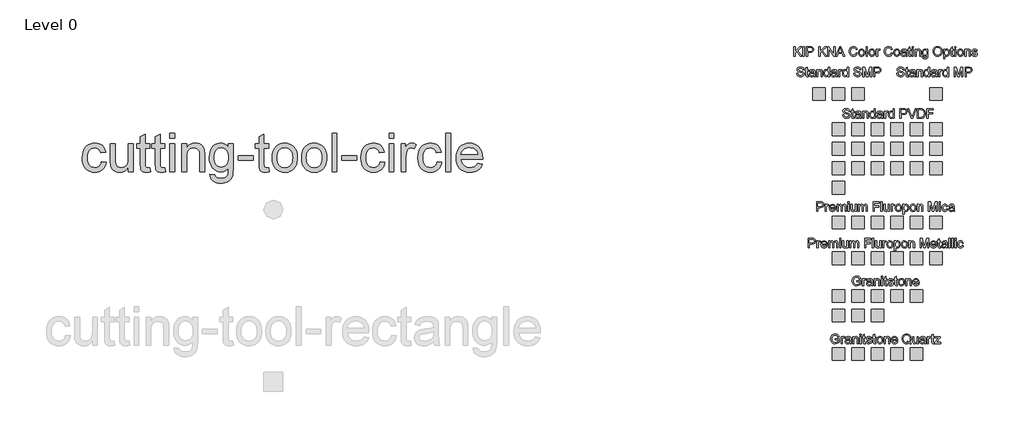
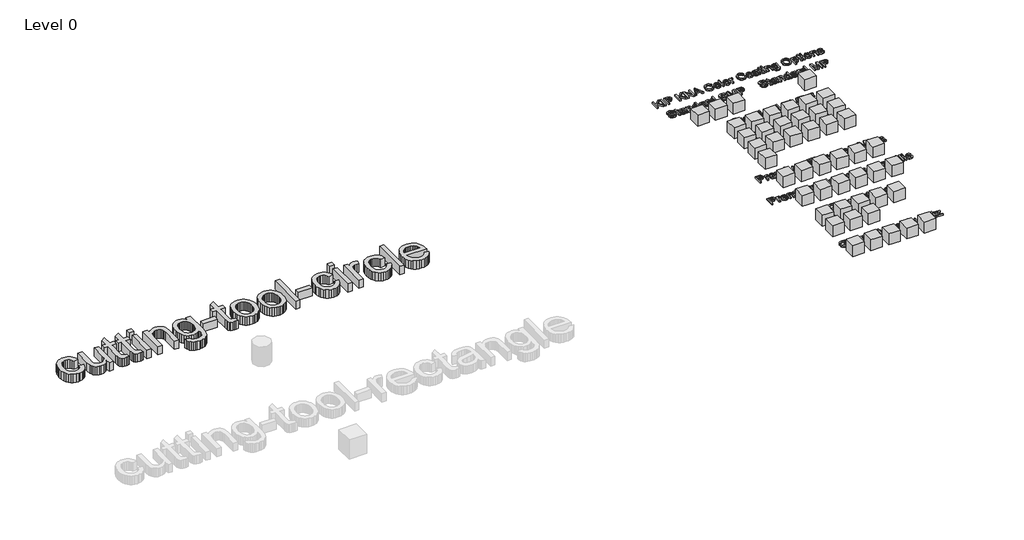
# One storey, part 4 of 4: 50 proxies.
"""IFC4 building model written with IfcOpenShell, lengths in millimetres."""

from ifc_helpers import new_model, si_unit, origin, origin_with_axes, place, context, project, spatial, polyline, outline, extrude, transform, mapped, element, save
from components import ks_color_sample_ks_color_sample_0243efec, r19_kna_color_range_kingspan_quadcore_4278cd54, r19_kna_color_range_kingspan_quadcore_c5814d20, r19_kna_color_range_kingspan_quadcore_91b79b7c

model = new_model("IFC4")

# Units and contexts
model_context = context("Model", 3, world=origin())
ifc_project = project(units=[si_unit("LENGTHUNIT", "METRE", prefix="MILLI")], contexts=[model_context])

# Site, building, storey
site = spatial("IfcSite", under=ifc_project)
building = spatial("IfcBuilding", under=site)
storey = spatial("IfcBuildingStorey", under=building, Name="Level 0", Elevation=0.0)

# Proxies
placement = place(None, origin())
element("IfcBuildingElementProxy", 1, Name="24\" Arial", ObjectType="24\" Arial", at=placement, inside=storey, context=model_context, shape_type="SweptSolid", body=[
    extrude(outline(polyline([(769.6651556, 12564.0079418), (845.8069291, 12554.4902201), (837.5253958, 12518.5617502), (824.5779483, 12486.7693996), (806.9645864, 12459.1131683), (784.6853101, 12435.5930562), (758.6788792, 12416.8225104), (729.8840532, 12403.4149776), (698.3008322, 12395.370458), (663.9292162, 12392.6889514), (621.2249463, 12396.4300481), (582.9356353, 12407.653338), (549.0612831, 12426.3588213), (519.6018896, 12452.546498), (495.7564648, 12485.7237515), (478.7240185, 12525.3979654), (468.5045507, 12571.5691397), (465.0980615, 12624.2372744), (470.9165124, 12691.9952735), (478.1895761, 12722.4863731), (488.3718653, 12750.7188728), (501.5330898, 12776.1257988), (517.7429596, 12798.1401775), (537.0014746, 12816.762009), (559.3086348, 12831.9912931), (583.6559707, 12843.8326774), (609.0350127, 12852.2908089), (635.445761, 12857.3656879), (662.8882154, 12859.0573142), (696.6696211, 12856.7336517), (727.2257833, 12849.7626641), (754.5567018, 12838.1443515), (778.6623768, 12821.8787138), (799.1338437, 12801.3375372), (815.5621377, 12776.8926074), (827.9472589, 12748.5439247), (836.2892074, 12716.2914889), (760.1474339, 12706.7737672), (746.3355838, 12739.9928466), (724.8277635, 12763.8057401), (696.8136882, 12778.1380905), (663.483073, 12782.9155407), (637.6114144, 12780.5639942), (614.2771954, 12773.5093548), (593.4804158, 12761.7516224), (575.2210757, 12745.2907971), (560.3542829, 12723.7457982), (549.7351452, 12696.7355451), (543.3636626, 12664.2600377), (541.239835, 12626.319276), (543.3171893, 12587.8068934), (549.5492522, 12554.9549526), (559.9360237, 12527.7634538), (574.4775037, 12506.2323969), (592.3743525, 12489.8691654), (612.82723, 12478.1811429), (635.8361363, 12471.1683294), (661.4010713, 12468.8307249), (700.828977, 12474.6677652), (717.8800126, 12481.9640655), (733.15577, 12492.1788859), (746.2286954, 12505.4237623), (756.6712347, 12521.8102304), (764.4833881, 12541.3382903), (769.6651556, 12564.0079418)])), origin_with_axes(), (0.0, 0.0, 1.0), 152.4),
    extrude(outline(polyline([(1197.9626316, 12402.2066731), (1197.9626316, 12479.0920186), (1170.4132887, 12441.2906767), (1138.3281566, 12414.2897182), (1101.7072353, 12398.0891431), (1060.5505247, 12392.6889514), (1023.4648708, 12396.4811686), (988.9445404, 12407.8578203), (959.9824108, 12424.9599765), (939.5713592, 12445.9287071), (925.8338663, 12471.3960483), (916.8924129, 12501.9940364), (912.4309809, 12572.7820915), (912.4309809, 12849.5395925), (988.5727544, 12849.5395925), (988.5727544, 12608.6222622), (989.725291, 12560.4387962), (993.1829009, 12530.9933447), (1004.2807131, 12505.0984496), (1023.2975671, 12485.4123807), (1048.9693907, 12472.9761389), (1080.0321113, 12468.8307249), (1112.8794047, 12473.0690854), (1143.6075179, 12485.7841667), (1168.944734, 12505.804843), (1185.6193363, 12531.9599883), (1194.8768078, 12567.7815698), (1197.9626316, 12616.8015543), (1197.9626316, 12849.5395925), (1274.1044051, 12849.5395925), (1274.1044051, 12402.2066731), (1197.9626316, 12402.2066731)])), origin_with_axes(), (0.0, 0.0, 1.0), 152.4),
    extrude(outline(polyline([(1540.6006124, 12465.7077225), (1550.1183341, 12399.9759571), (1519.9664892, 12394.5107028), (1493.1607184, 12392.6889514), (1456.6141542, 12395.8491324), (1429.3622402, 12405.3296755), (1410.1037252, 12419.9408655), (1397.5373583, 12438.492987), (1390.6221386, 12470.3550475), (1388.3170654, 12524.8960543), (1388.3170654, 12773.397819), (1331.2107352, 12773.397819), (1331.2107352, 12849.5395925), (1388.3170654, 12849.5395925), (1388.3170654, 12958.2498199), (1464.4588389, 13003.0128548), (1464.4588389, 12849.5395925), (1540.6006124, 12849.5395925), (1540.6006124, 12773.397819), (1464.4588389, 12773.397819), (1464.4588389, 12527.1267703), (1468.4741277, 12487.8661683), (1481.4866379, 12473.9613718), (1492.4729143, 12470.1133866), (1507.4373009, 12468.8307249), (1540.6006124, 12465.7077225)])), origin_with_axes(), (0.0, 0.0, 1.0), 152.4),
    extrude(outline(polyline([(1778.5436547, 12465.7077225), (1788.0613763, 12399.9759571), (1757.9095315, 12394.5107028), (1731.1037606, 12392.6889514), (1694.5571965, 12395.8491324), (1667.3052824, 12405.3296755), (1648.0467674, 12419.9408655), (1635.4804005, 12438.492987), (1628.5651808, 12470.3550475), (1626.2601076, 12524.8960543), (1626.2601076, 12773.397819), (1569.1537775, 12773.397819), (1569.1537775, 12849.5395925), (1626.2601076, 12849.5395925), (1626.2601076, 12958.2498199), (1702.4018811, 13003.0128548), (1702.4018811, 12849.5395925), (1778.5436547, 12849.5395925), (1778.5436547, 12773.397819), (1702.4018811, 12773.397819), (1702.4018811, 12527.1267703), (1706.41717, 12487.8661683), (1719.4296801, 12473.9613718), (1730.4159565, 12470.1133866), (1745.3803431, 12468.8307249), (1778.5436547, 12465.7077225)])), origin_with_axes(), (0.0, 0.0, 1.0), 152.4),
    extrude(outline(polyline([(1854.6854282, 12935.1990877), (1854.6854282, 13011.3408612), (1930.8272017, 13011.3408612), (1930.8272017, 12935.1990877), (1854.6854282, 12935.1990877)])), origin_with_axes(), (0.0, 0.0, 1.0), 152.4),
    extrude(outline(polyline([(1854.6854282, 12402.2066731), (1854.6854282, 12849.5395925), (1930.8272017, 12849.5395925), (1930.8272017, 12402.2066731), (1854.6854282, 12402.2066731)])), origin_with_axes(), (0.0, 0.0, 1.0), 152.4),
    extrude(outline(polyline([(2045.039862, 12402.2066731), (2045.039862, 12849.5395925), (2121.1816355, 12849.5395925), (2121.1816355, 12787.0795439), (2147.6342096, 12818.5698184), (2179.4033236, 12841.0628716), (2216.4889775, 12854.5587036), (2258.8911712, 12859.0573142), (2296.4229682, 12855.4324007), (2330.7945843, 12844.5576601), (2359.4592851, 12827.7901113), (2379.8703367, 12806.4867733), (2393.7193654, 12780.703414), (2402.6979973, 12750.4958012), (2406.7132862, 12676.8821725), (2406.7132862, 12402.2066731), (2330.5715127, 12402.2066731), (2330.5715127, 12666.6208788), (2328.3779752, 12705.9930166), (2321.797363, 12733.9885026), (2309.65855, 12754.0463575), (2290.7904103, 12769.6056018), (2266.6057308, 12779.5880559), (2238.5172982, 12782.9155407), (2215.3968561, 12781.047316), (2193.9215671, 12775.442642), (2174.0914311, 12766.1015187), (2155.9064482, 12753.023946), (2140.7143426, 12734.72278), (2129.8628387, 12709.7108766), (2123.3519363, 12677.9882358), (2121.1816355, 12639.5548577), (2121.1816355, 12402.2066731), (2045.039862, 12402.2066731)])), origin_with_axes(), (0.0, 0.0, 1.0), 152.4),
    extrude(outline(polyline([(2492.3727814, 12364.1357863), (2568.5145549, 12354.6180646), (2576.9169186, 12330.8237604), (2593.2011455, 12314.4651763), (2625.2119204, 12301.7500949), (2667.112203, 12297.5117345), (2711.8008806, 12302.307774), (2729.8510911, 12308.3028233), (2745.0385494, 12316.6958923), (2768.0892816, 12339.7466245), (2782.2171497, 12370.5305056), (2786.3439744, 12403.2848525), (2787.4221538, 12459.3130032), (2762.0849376, 12434.3289838), (2733.8106121, 12416.4832556), (2702.5991771, 12405.7758187), (2668.4506326, 12402.2066731), (2626.7037118, 12406.3613817), (2589.948018, 12418.8255075), (2558.1835513, 12439.5990504), (2531.4103117, 12468.6820105), (2510.167389, 12503.5741269), (2494.9938727, 12541.7751388), (2485.8897629, 12583.2850461), (2482.8550597, 12628.1038488), (2488.3017246, 12689.5786645), (2504.6417195, 12746.1087263), (2516.7526486, 12771.5993042), (2531.2987759, 12794.0133529), (2548.2801017, 12813.3508724), (2567.6966257, 12829.6118627), (2589.2369773, 12842.4942477), (2612.5897856, 12851.6959513), (2637.7550507, 12857.2169735), (2664.7327726, 12859.0573142), (2700.3405771, 12854.893311), (2732.6580754, 12842.4013012), (2761.6852677, 12821.581285), (2787.4221538, 12792.4332624), (2787.4221538, 12849.5395925), (2863.5639273, 12849.5395925), (2863.5639273, 12463.3282921), (2858.3589232, 12374.1554191), (2851.8526682, 12340.9874603), (2842.7439111, 12315.4318199), (2830.8142277, 12294.8209333), (2815.8451937, 12276.487236), (2797.8368092, 12260.430728), (2776.7890741, 12246.6514092), (2752.9157653, 12235.5907756), (2726.4306599, 12227.6903231), (2697.3337578, 12222.9500515), (2665.625059, 12221.369961), (2628.3209809, 12223.5960297), (2594.781236, 12230.2742358), (2565.0058245, 12241.4045793), (2538.9947462, 12256.9870601), (2517.9841897, 12277.0402677), (2503.2103434, 12301.5827912), (2494.6732073, 12330.6146308), (2492.3727814, 12364.1357863)]), holes=[polyline([(2558.9968332, 12633.3088529), (2561.0277143, 12595.6608727), (2567.1203574, 12563.4688521), (2577.2747626, 12536.7327911), (2591.4909299, 12515.4526898), (2608.7743318, 12499.2195834), (2628.1304406, 12487.6245074), (2649.5592563, 12480.6674618), (2673.0607791, 12478.3484466), (2696.3299356, 12480.6535198), (2717.6565102, 12487.5687395), (2737.040503, 12499.0941056), (2754.4819139, 12515.2296182), (2768.8932688, 12536.3005899), (2779.1870938, 12562.6323336), (2785.3633888, 12594.2248493), (2787.4221538, 12631.0781369), (2785.3029735, 12666.3931599), (2778.9454329, 12697.0887418), (2768.3495318, 12723.1648826), (2753.5152702, 12744.6215823), (2735.697426, 12761.3751891), (2716.1507769, 12773.3420511), (2694.8753228, 12780.5221683), (2671.8710639, 12782.9155407), (2649.2525329, 12780.5593469), (2628.3906908, 12773.4907655), (2609.2855375, 12761.7097965), (2591.9370731, 12745.2164399), (2577.5257182, 12724.085053), (2567.2318932, 12698.3899928), (2561.0555982, 12668.1312594), (2558.9968332, 12633.3088529)])]), origin_with_axes(), (0.0, 0.0, 1.0), 152.4),
    extrude(outline(polyline([(2939.7057008, 12583.0433852), (2939.7057008, 12659.1851587), (3177.648743, 12659.1851587), (3177.648743, 12583.0433852), (2939.7057008, 12583.0433852)])), origin_with_axes(), (0.0, 0.0, 1.0), 152.4),
    extrude(outline(polyline([(3425.109507, 12465.7077225), (3434.6272287, 12399.9759571), (3404.4753838, 12394.5107028), (3377.6696129, 12392.6889514), (3341.1230488, 12395.8491324), (3313.8711347, 12405.3296755), (3294.6126197, 12419.9408655), (3282.0462528, 12438.492987), (3275.1310332, 12470.3550475), (3272.8259599, 12524.8960543), (3272.8259599, 12773.397819), (3215.7196298, 12773.397819), (3215.7196298, 12849.5395925), (3272.8259599, 12849.5395925), (3272.8259599, 12958.2498199), (3348.9677334, 13003.0128548), (3348.9677334, 12849.5395925), (3425.109507, 12849.5395925), (3425.109507, 12773.397819), (3348.9677334, 12773.397819), (3348.9677334, 12527.1267703), (3352.9830223, 12487.8661683), (3365.9955324, 12473.9613718), (3376.9818088, 12470.1133866), (3391.9461955, 12468.8307249), (3425.109507, 12465.7077225)])), origin_with_axes(), (0.0, 0.0, 1.0), 152.4),
    extrude(outline(polyline([(3482.2158371, 12625.8731328), (3486.3333671, 12683.8066868), (3498.6859571, 12733.7282524), (3519.273607, 12775.6378297), (3548.0963169, 12809.5354185), (3577.1142145, 12831.2012479), (3609.1435787, 12846.6768403), (3644.1844095, 12855.9621957), (3682.236707, 12859.0573142), (3724.2438781, 12855.2883336), (3762.2264656, 12843.9813918), (3796.1844697, 12825.1364887), (3826.1178903, 12798.7536244), (3850.5488781, 12765.7250853), (3867.9995836, 12726.9431579), (3878.470007, 12682.407842), (3881.9601481, 12632.1191377), (3880.4172362, 12591.362097), (3875.7885004, 12555.1966135), (3868.0739408, 12523.6226872), (3857.2735574, 12496.640318), (3843.5221226, 12473.3339829), (3826.9544089, 12452.7881589), (3807.5704161, 12435.0028459), (3785.3701444, 12419.9780441), (3761.2179961, 12408.039066), (3735.9783738, 12399.5112246), (3709.6512774, 12394.3945197), (3682.236707, 12392.6889514), (3639.616089, 12396.44399), (3601.2803047, 12407.7091059), (3567.2293541, 12426.4842991), (3537.4632372, 12452.7695696), (3513.2924997, 12486.1187741), (3496.0276871, 12526.0857695), (3485.6687996, 12572.6705557), (3482.2158371, 12625.8731328)]), holes=[polyline([(3558.3576106, 12626.0218472), (3560.5604427, 12589.0895551), (3567.1689389, 12557.1113115), (3578.1830993, 12530.0871163), (3593.6029238, 12508.0169697), (3612.3595276, 12490.8729876), (3633.3840261, 12478.6272861), (3656.6764192, 12471.2798652), (3682.236707, 12468.8307249), (3707.6668696, 12471.2938072), (3730.8663162, 12478.683054), (3751.8350468, 12490.9984654), (3770.5730614, 12508.2400413), (3785.9928859, 12530.5286122), (3797.0070463, 12557.9850086), (3803.6155425, 12590.6092304), (3805.8183746, 12628.4012776), (3803.6016005, 12664.1624438), (3796.9512784, 12695.304169), (3785.8674081, 12721.826453), (3770.3499898, 12743.7292959), (3751.5422654, 12760.873278), (3730.5874767, 12773.1189795), (3707.485624, 12780.4664004), (3682.236707, 12782.9155407), (3656.6764192, 12780.475695), (3633.3840261, 12773.1561581), (3612.3595276, 12760.9569298), (3593.6029238, 12743.8780103), (3578.1830993, 12721.8729262), (3567.1689389, 12694.8952044), (3560.5604427, 12662.9448447), (3558.3576106, 12626.0218472)])]), origin_with_axes(), (0.0, 0.0, 1.0), 152.4),
    extrude(outline(polyline([(3948.5841999, 12625.8731328), (3952.7017299, 12683.8066868), (3965.0543199, 12733.7282524), (3985.6419698, 12775.6378297), (4014.4646797, 12809.5354185), (4043.4825773, 12831.2012479), (4075.5119415, 12846.6768403), (4110.5527723, 12855.9621957), (4148.6050698, 12859.0573142), (4190.6122409, 12855.2883336), (4228.5948284, 12843.9813918), (4262.5528325, 12825.1364887), (4292.4862531, 12798.7536244), (4316.9172409, 12765.7250853), (4334.3679464, 12726.9431579), (4344.8383698, 12682.407842), (4348.3285109, 12632.1191377), (4346.7855989, 12591.362097), (4342.1568632, 12555.1966135), (4334.4423036, 12523.6226872), (4323.6419202, 12496.640318), (4309.8904854, 12473.3339829), (4293.3227716, 12452.7881589), (4273.9387789, 12435.0028459), (4251.7385072, 12419.9780441), (4227.5863589, 12408.039066), (4202.3467366, 12399.5112246), (4176.0196402, 12394.3945197), (4148.6050698, 12392.6889514), (4105.9844518, 12396.44399), (4067.6486675, 12407.7091059), (4033.5977169, 12426.4842991), (4003.8316, 12452.7695696), (3979.6608625, 12486.1187741), (3962.3960499, 12526.0857695), (3952.0371624, 12572.6705557), (3948.5841999, 12625.8731328)]), holes=[polyline([(4024.7259734, 12626.0218472), (4026.9288055, 12589.0895551), (4033.5373017, 12557.1113115), (4044.5514621, 12530.0871163), (4059.9712865, 12508.0169697), (4078.7278904, 12490.8729876), (4099.7523889, 12478.6272861), (4123.044782, 12471.2798652), (4148.6050698, 12468.8307249), (4174.0352324, 12471.2938072), (4197.234679, 12478.683054), (4218.2034096, 12490.9984654), (4236.9414242, 12508.2400413), (4252.3612487, 12530.5286122), (4263.3754091, 12557.9850086), (4269.9839053, 12590.6092304), (4272.1867373, 12628.4012776), (4269.9699633, 12664.1624438), (4263.3196412, 12695.304169), (4252.2357709, 12721.826453), (4236.7183526, 12743.7292959), (4217.9106282, 12760.873278), (4196.9558395, 12773.1189795), (4173.8539867, 12780.4664004), (4148.6050698, 12782.9155407), (4123.044782, 12780.475695), (4099.7523889, 12773.1561581), (4078.7278904, 12760.9569298), (4059.9712865, 12743.8780103), (4044.5514621, 12721.8729262), (4033.5373017, 12694.8952044), (4026.9288055, 12662.9448447), (4024.7259734, 12626.0218472)])]), origin_with_axes(), (0.0, 0.0, 1.0), 152.4),
    extrude(outline(polyline([(4433.9880061, 12402.2066731), (4433.9880061, 13011.3408612), (4510.1297796, 13011.3408612), (4510.1297796, 12402.2066731), (4433.9880061, 12402.2066731)])), origin_with_axes(), (0.0, 0.0, 1.0), 152.4),
    extrude(outline(polyline([(4586.2715531, 12583.0433852), (4586.2715531, 12659.1851587), (4824.2145953, 12659.1851587), (4824.2145953, 12583.0433852), (4586.2715531, 12583.0433852)])), origin_with_axes(), (0.0, 0.0, 1.0), 152.4),
    extrude(outline(polyline([(5195.4057412, 12564.0079418), (5271.5475148, 12554.4902201), (5263.2659815, 12518.5617502), (5250.318534, 12486.7693996), (5232.705172, 12459.1131683), (5210.4258958, 12435.5930562), (5184.4194648, 12416.8225104), (5155.6246389, 12403.4149776), (5124.0414179, 12395.370458), (5089.6698018, 12392.6889514), (5046.965532, 12396.4300481), (5008.676221, 12407.653338), (4974.8018687, 12426.3588213), (4945.3424753, 12452.546498), (4921.4970505, 12485.7237515), (4904.4646042, 12525.3979654), (4894.2451364, 12571.5691397), (4890.8386472, 12624.2372744), (4896.6570981, 12691.9952735), (4903.9301618, 12722.4863731), (4914.112451, 12750.7188728), (4927.2736755, 12776.1257988), (4943.4835453, 12798.1401775), (4962.7420602, 12816.762009), (4985.0492205, 12831.9912931), (5009.3965564, 12843.8326774), (5034.7755984, 12852.2908089), (5061.1863466, 12857.3656879), (5088.628801, 12859.0573142), (5122.4102068, 12856.7336517), (5152.9663689, 12849.7626641), (5180.2972875, 12838.1443515), (5204.4029625, 12821.8787138), (5224.8744293, 12801.3375372), (5241.3027234, 12776.8926074), (5253.6878446, 12748.5439247), (5262.0297931, 12716.2914889), (5185.8880195, 12706.7737672), (5172.0761695, 12739.9928466), (5150.5683492, 12763.8057401), (5122.5542739, 12778.1380905), (5089.2236586, 12782.9155407), (5063.3520001, 12780.5639942), (5040.0177811, 12773.5093548), (5019.2210015, 12761.7516224), (5000.9616614, 12745.2907971), (4986.0948686, 12723.7457982), (4975.4757309, 12696.7355451), (4969.1042482, 12664.2600377), (4966.9804207, 12626.319276), (4969.057775, 12587.8068934), (4975.2898379, 12554.9549526), (4985.6766093, 12527.7634538), (5000.2180894, 12506.2323969), (5018.1149381, 12489.8691654), (5038.5678157, 12478.1811429), (5061.576722, 12471.1683294), (5087.141657, 12468.8307249), (5126.5695627, 12474.6677652), (5143.6205983, 12481.9640655), (5158.8963557, 12492.1788859), (5171.969281, 12505.4237623), (5182.4118204, 12521.8102304), (5190.2239738, 12541.3382903), (5195.4057412, 12564.0079418)])), origin_with_axes(), (0.0, 0.0, 1.0), 152.4),
    extrude(outline(polyline([(5338.1715666, 12935.1990877), (5338.1715666, 13011.3408612), (5414.3133401, 13011.3408612), (5414.3133401, 12935.1990877), (5338.1715666, 12935.1990877)])), origin_with_axes(), (0.0, 0.0, 1.0), 152.4),
    extrude(outline(polyline([(5338.1715666, 12402.2066731), (5338.1715666, 12849.5395925), (5414.3133401, 12849.5395925), (5414.3133401, 12402.2066731), (5338.1715666, 12402.2066731)])), origin_with_axes(), (0.0, 0.0, 1.0), 152.4),
    extrude(outline(polyline([(5528.5260004, 12402.2066731), (5528.5260004, 12849.5395925), (5595.1500522, 12849.5395925), (5595.1500522, 12783.3616839), (5619.7622856, 12821.7299994), (5642.4412318, 12844.3345885), (5665.1945353, 12855.3766328), (5690.0298403, 12859.0573142), (5727.9520127, 12853.1830953), (5766.4690426, 12835.5604388), (5741.03888, 12767.3005285), (5714.2702877, 12779.0117876), (5687.5016955, 12782.9155407), (5664.7669814, 12779.160502), (5644.4488763, 12767.8953861), (5628.0345242, 12749.9753008), (5617.0110692, 12726.2553537), (5607.7535977, 12683.7230349), (5604.6677739, 12637.3241417), (5604.6677739, 12402.2066731), (5528.5260004, 12402.2066731)])), origin_with_axes(), (0.0, 0.0, 1.0), 152.4),
    extrude(outline(polyline([(6099.5893018, 12564.0079418), (6175.7310753, 12554.4902201), (6167.449542, 12518.5617502), (6154.5020945, 12486.7693996), (6136.8887326, 12459.1131683), (6114.6094563, 12435.5930562), (6088.6030254, 12416.8225104), (6059.8081994, 12403.4149776), (6028.2249784, 12395.370458), (5993.8533624, 12392.6889514), (5951.1490925, 12396.4300481), (5912.8597815, 12407.653338), (5878.9854293, 12426.3588213), (5849.5260358, 12452.546498), (5825.680611, 12485.7237515), (5808.6481647, 12525.3979654), (5798.4286969, 12571.5691397), (5795.0222077, 12624.2372744), (5800.8406586, 12691.9952735), (5808.1137223, 12722.4863731), (5818.2960115, 12750.7188728), (5831.457236, 12776.1257988), (5847.6671058, 12798.1401775), (5866.9256208, 12816.762009), (5889.232781, 12831.9912931), (5913.5801169, 12843.8326774), (5938.9591589, 12852.2908089), (5965.3699072, 12857.3656879), (5992.8123615, 12859.0573142), (6026.5937673, 12856.7336517), (6057.1499295, 12849.7626641), (6084.480848, 12838.1443515), (6108.586523, 12821.8787138), (6129.0579899, 12801.3375372), (6145.4862839, 12776.8926074), (6157.8714051, 12748.5439247), (6166.2133536, 12716.2914889), (6090.0715801, 12706.7737672), (6076.25973, 12739.9928466), (6054.7519097, 12763.8057401), (6026.7378344, 12778.1380905), (5993.4072192, 12782.9155407), (5967.5355606, 12780.5639942), (5944.2013416, 12773.5093548), (5923.404562, 12761.7516224), (5905.1452219, 12745.2907971), (5890.2784291, 12723.7457982), (5879.6592914, 12696.7355451), (5873.2878087, 12664.2600377), (5871.1639812, 12626.319276), (5873.2413355, 12587.8068934), (5879.4733984, 12554.9549526), (5889.8601699, 12527.7634538), (5904.4016499, 12506.2323969), (5922.2984987, 12489.8691654), (5942.7513762, 12478.1811429), (5965.7602825, 12471.1683294), (5991.3252175, 12468.8307249), (6030.7531232, 12474.6677652), (6047.8041588, 12481.9640655), (6063.0799162, 12492.1788859), (6076.1528416, 12505.4237623), (6086.5953809, 12521.8102304), (6094.4075343, 12541.3382903), (6099.5893018, 12564.0079418)])), origin_with_axes(), (0.0, 0.0, 1.0), 152.4),
    extrude(outline(polyline([(6242.3551271, 12402.2066731), (6242.3551271, 13011.3408612), (6318.4969006, 13011.3408612), (6318.4969006, 12402.2066731), (6242.3551271, 12402.2066731)])), origin_with_axes(), (0.0, 0.0, 1.0), 152.4),
    extrude(outline(polyline([(6745.9020902, 12535.4547767), (6820.5567197, 12525.9370551), (6809.1103582, 12496.0361657), (6793.6580024, 12469.6858327), (6774.1996524, 12446.8860561), (6750.7353083, 12427.6368357), (6723.5066309, 12412.3471363), (6692.755281, 12401.4259225), (6658.4812588, 12394.8731942), (6620.6845643, 12392.6889514), (6573.4398579, 12396.457932), (6531.3443876, 12407.7648738), (6494.3981535, 12426.6097769), (6462.6011556, 12452.9926412), (6437.0315732, 12486.1791893), (6418.7675858, 12525.435144), (6407.8091933, 12570.7605051), (6404.1563958, 12622.1552728), (6407.8463719, 12675.2927873), (6418.9163002, 12722.1285291), (6437.3661806, 12762.6624981), (6463.1960132, 12796.8946944), (6494.9093593, 12824.0908406), (6531.0097802, 12843.5166593), (6571.497276, 12855.1721505), (6616.3718466, 12859.0573142), (6659.8010992, 12855.1814451), (6699.0756431, 12843.5538379), (6734.1954785, 12824.1744924), (6765.1606052, 12797.0434088), (6790.4374061, 12762.8855697), (6808.4922639, 12722.4259579), (6819.3251786, 12675.6645733), (6822.9361502, 12622.601416), (6822.490007, 12602.0788286), (6480.2981693, 12602.0788286), (6484.7084808, 12571.6946174), (6493.4779832, 12545.0840342), (6506.6066764, 12522.247079), (6524.0945606, 12503.1837516), (6544.974992, 12488.1543025), (6568.2813271, 12477.4189816), (6594.0135658, 12470.9777891), (6622.1717083, 12468.8307249), (6662.6963827, 12472.8088352), (6696.8263378, 12484.7431659), (6724.5615736, 12505.3772891), (6745.9020902, 12535.4547767)]), holes=[polyline([(6480.2981693, 12678.2206021), (6746.7943766, 12678.2206021), (6736.4959044, 12718.4478477), (6727.6381028, 12734.2673421), (6716.3079244, 12747.2240843), (6695.5436761, 12762.8390965), (6671.9166755, 12773.9926766), (6645.4269228, 12780.6848247), (6616.0744178, 12782.9155407), (6589.3011782, 12781.1356152), (6564.74936, 12775.7958387), (6542.4189632, 12766.8962113), (6522.3099877, 12754.4367328), (6505.4355505, 12738.9936717), (6492.8087684, 12721.1432962), (6484.4296413, 12700.8856063), (6480.2981693, 12678.2206021)])]), origin_with_axes(), (0.0, 0.0, 1.0), 152.4),
])
ks_color_sample_ks_color_sample_shape = ks_color_sample_ks_color_sample_0243efec(model_context)
element("IfcBuildingElementProxy", 2, Name="KS_Color Sample : KS_Color Sample", ObjectType="KS_Color Sample : KS_Color Sample", at=placement, inside=storey, context=model_context, shape_type="MappedRepresentation", body=[
    mapped(ks_color_sample_ks_color_sample_shape, transform((12166.5853815, 13639.2290821, 0.0), x_axis=(1.0, 0.0, 0.0), y_axis=(0.0, 1.0, 0.0), z_axis=(0.0, 0.0, 1.0))),
])
element("IfcBuildingElementProxy", 3, Name="KS_Color Sample : KS_Color Sample", ObjectType="KS_Color Sample : KS_Color Sample", at=placement, inside=storey, context=model_context, shape_type="MappedRepresentation", body=[
    mapped(ks_color_sample_ks_color_sample_shape, transform((12476.5853815, 13639.2290821, 0.0), x_axis=(1.0, 0.0, 0.0), y_axis=(0.0, 1.0, 0.0), z_axis=(0.0, 0.0, 1.0))),
])
element("IfcBuildingElementProxy", 4, Name="KS_Color Sample : KS_Color Sample", ObjectType="KS_Color Sample : KS_Color Sample", at=placement, inside=storey, context=model_context, shape_type="MappedRepresentation", body=[
    mapped(ks_color_sample_ks_color_sample_shape, transform((12786.5853815, 13639.2290821, 0.0), x_axis=(1.0, 0.0, 0.0), y_axis=(0.0, 1.0, 0.0), z_axis=(0.0, 0.0, 1.0))),
])
element("IfcBuildingElementProxy", 5, Name="KS_Color Sample : KS_Color Sample", ObjectType="KS_Color Sample : KS_Color Sample", at=placement, inside=storey, context=model_context, shape_type="MappedRepresentation", body=[
    mapped(ks_color_sample_ks_color_sample_shape, transform((14026.5853815, 13639.2290821, 0.0), x_axis=(1.0, 0.0, 0.0), y_axis=(0.0, 1.0, 0.0), z_axis=(0.0, 0.0, 1.0))),
])
element("IfcBuildingElementProxy", 6, Name="KS_Color Sample : KS_Color Sample", ObjectType="KS_Color Sample : KS_Color Sample", at=placement, inside=storey, context=model_context, shape_type="MappedRepresentation", body=[
    mapped(ks_color_sample_ks_color_sample_shape, transform((12786.5853815, 13079.2290821, 0.0), x_axis=(1.0, 0.0, 0.0), y_axis=(0.0, 1.0, 0.0), z_axis=(0.0, 0.0, 1.0))),
])
element("IfcBuildingElementProxy", 7, Name="KS_Color Sample : KS_Color Sample", ObjectType="KS_Color Sample : KS_Color Sample", at=placement, inside=storey, context=model_context, shape_type="MappedRepresentation", body=[
    mapped(ks_color_sample_ks_color_sample_shape, transform((13096.5853815, 13079.2290821, 0.0), x_axis=(1.0, 0.0, 0.0), y_axis=(0.0, 1.0, 0.0), z_axis=(0.0, 0.0, 1.0))),
])
element("IfcBuildingElementProxy", 8, Name="KS_Color Sample : KS_Color Sample", ObjectType="KS_Color Sample : KS_Color Sample", at=placement, inside=storey, context=model_context, shape_type="MappedRepresentation", body=[
    mapped(ks_color_sample_ks_color_sample_shape, transform((13406.5853815, 13079.2290821, 0.0), x_axis=(1.0, 0.0, 0.0), y_axis=(0.0, 1.0, 0.0), z_axis=(0.0, 0.0, 1.0))),
])
element("IfcBuildingElementProxy", 9, Name="KS_Color Sample : KS_Color Sample", ObjectType="KS_Color Sample : KS_Color Sample", at=placement, inside=storey, context=model_context, shape_type="MappedRepresentation", body=[
    mapped(ks_color_sample_ks_color_sample_shape, transform((13716.5853815, 13079.2290821, 0.0), x_axis=(1.0, 0.0, 0.0), y_axis=(0.0, 1.0, 0.0), z_axis=(0.0, 0.0, 1.0))),
])
element("IfcBuildingElementProxy", 10, Name="KS_Color Sample : KS_Color Sample", ObjectType="KS_Color Sample : KS_Color Sample", at=placement, inside=storey, context=model_context, shape_type="MappedRepresentation", body=[
    mapped(ks_color_sample_ks_color_sample_shape, transform((12476.5853815, 11599.2290821, 0.0), x_axis=(1.0, 0.0, 0.0), y_axis=(0.0, 1.0, 0.0), z_axis=(0.0, 0.0, 1.0))),
])
element("IfcBuildingElementProxy", 11, Name="KS_Color Sample : KS_Color Sample", ObjectType="KS_Color Sample : KS_Color Sample", at=placement, inside=storey, context=model_context, shape_type="MappedRepresentation", body=[
    mapped(ks_color_sample_ks_color_sample_shape, transform((12786.5853815, 11599.2290821, 0.0), x_axis=(1.0, 0.0, 0.0), y_axis=(0.0, 1.0, 0.0), z_axis=(0.0, 0.0, 1.0))),
])
element("IfcBuildingElementProxy", 12, Name="KS_Color Sample : KS_Color Sample", ObjectType="KS_Color Sample : KS_Color Sample", at=placement, inside=storey, context=model_context, shape_type="MappedRepresentation", body=[
    mapped(ks_color_sample_ks_color_sample_shape, transform((13096.5853815, 11599.2290821, 0.0), x_axis=(1.0, 0.0, 0.0), y_axis=(0.0, 1.0, 0.0), z_axis=(0.0, 0.0, 1.0))),
])
element("IfcBuildingElementProxy", 13, Name="KS_Color Sample : KS_Color Sample", ObjectType="KS_Color Sample : KS_Color Sample", at=placement, inside=storey, context=model_context, shape_type="MappedRepresentation", body=[
    mapped(ks_color_sample_ks_color_sample_shape, transform((13406.5853815, 11599.2290821, 0.0), x_axis=(1.0, 0.0, 0.0), y_axis=(0.0, 1.0, 0.0), z_axis=(0.0, 0.0, 1.0))),
])
element("IfcBuildingElementProxy", 14, Name="KS_Color Sample : KS_Color Sample", ObjectType="KS_Color Sample : KS_Color Sample", at=placement, inside=storey, context=model_context, shape_type="MappedRepresentation", body=[
    mapped(ks_color_sample_ks_color_sample_shape, transform((14026.5853815, 13079.2290821, 0.0), x_axis=(1.0, 0.0, 0.0), y_axis=(0.0, 1.0, 0.0), z_axis=(0.0, 0.0, 1.0))),
])
element("IfcBuildingElementProxy", 15, Name="KS_Color Sample : KS_Color Sample", ObjectType="KS_Color Sample : KS_Color Sample", at=placement, inside=storey, context=model_context, shape_type="MappedRepresentation", body=[
    mapped(ks_color_sample_ks_color_sample_shape, transform((13716.5853815, 12769.2290821, 0.0), x_axis=(1.0, 0.0, 0.0), y_axis=(0.0, 1.0, 0.0), z_axis=(0.0, 0.0, 1.0))),
])
element("IfcBuildingElementProxy", 16, Name="KS_Color Sample : KS_Color Sample", ObjectType="KS_Color Sample : KS_Color Sample", at=placement, inside=storey, context=model_context, shape_type="MappedRepresentation", body=[
    mapped(ks_color_sample_ks_color_sample_shape, transform((14026.5853815, 12769.2290821, 0.0), x_axis=(1.0, 0.0, 0.0), y_axis=(0.0, 1.0, 0.0), z_axis=(0.0, 0.0, 1.0))),
])
element("IfcBuildingElementProxy", 17, Name="KS_Color Sample : KS_Color Sample", ObjectType="KS_Color Sample : KS_Color Sample", at=placement, inside=storey, context=model_context, shape_type="MappedRepresentation", body=[
    mapped(ks_color_sample_ks_color_sample_shape, transform((12476.5853815, 12769.2290821, 0.0), x_axis=(1.0, 0.0, 0.0), y_axis=(0.0, 1.0, 0.0), z_axis=(0.0, 0.0, 1.0))),
])
element("IfcBuildingElementProxy", 18, Name="KS_Color Sample : KS_Color Sample", ObjectType="KS_Color Sample : KS_Color Sample", at=placement, inside=storey, context=model_context, shape_type="MappedRepresentation", body=[
    mapped(ks_color_sample_ks_color_sample_shape, transform((13096.5853815, 12769.2290821, 0.0), x_axis=(1.0, 0.0, 0.0), y_axis=(0.0, 1.0, 0.0), z_axis=(0.0, 0.0, 1.0))),
])
element("IfcBuildingElementProxy", 19, Name="KS_Color Sample : KS_Color Sample", ObjectType="KS_Color Sample : KS_Color Sample", at=placement, inside=storey, context=model_context, shape_type="MappedRepresentation", body=[
    mapped(ks_color_sample_ks_color_sample_shape, transform((13406.5853815, 12769.2290821, 0.0), x_axis=(1.0, 0.0, 0.0), y_axis=(0.0, 1.0, 0.0), z_axis=(0.0, 0.0, 1.0))),
])
element("IfcBuildingElementProxy", 20, Name="KS_Color Sample : KS_Color Sample", ObjectType="KS_Color Sample : KS_Color Sample", at=placement, inside=storey, context=model_context, shape_type="MappedRepresentation", body=[
    mapped(ks_color_sample_ks_color_sample_shape, transform((12476.5853815, 12459.2290821, 0.0), x_axis=(1.0, 0.0, 0.0), y_axis=(0.0, 1.0, 0.0), z_axis=(0.0, 0.0, 1.0))),
])
element("IfcBuildingElementProxy", 21, Name="KS_Color Sample : KS_Color Sample", ObjectType="KS_Color Sample : KS_Color Sample", at=placement, inside=storey, context=model_context, shape_type="MappedRepresentation", body=[
    mapped(ks_color_sample_ks_color_sample_shape, transform((12786.5853815, 12459.2290821, 0.0), x_axis=(1.0, 0.0, 0.0), y_axis=(0.0, 1.0, 0.0), z_axis=(0.0, 0.0, 1.0))),
])
element("IfcBuildingElementProxy", 22, Name="KS_Color Sample : KS_Color Sample", ObjectType="KS_Color Sample : KS_Color Sample", at=placement, inside=storey, context=model_context, shape_type="MappedRepresentation", body=[
    mapped(ks_color_sample_ks_color_sample_shape, transform((13096.5853815, 12459.2290821, 0.0), x_axis=(1.0, 0.0, 0.0), y_axis=(0.0, 1.0, 0.0), z_axis=(0.0, 0.0, 1.0))),
])
element("IfcBuildingElementProxy", 23, Name="KS_Color Sample : KS_Color Sample", ObjectType="KS_Color Sample : KS_Color Sample", at=placement, inside=storey, context=model_context, shape_type="MappedRepresentation", body=[
    mapped(ks_color_sample_ks_color_sample_shape, transform((13406.5853815, 12459.2290821, 0.0), x_axis=(1.0, 0.0, 0.0), y_axis=(0.0, 1.0, 0.0), z_axis=(0.0, 0.0, 1.0))),
])
element("IfcBuildingElementProxy", 24, Name="KS_Color Sample : KS_Color Sample", ObjectType="KS_Color Sample : KS_Color Sample", at=placement, inside=storey, context=model_context, shape_type="MappedRepresentation", body=[
    mapped(ks_color_sample_ks_color_sample_shape, transform((13716.5853815, 12459.2290821, 0.0), x_axis=(1.0, 0.0, 0.0), y_axis=(0.0, 1.0, 0.0), z_axis=(0.0, 0.0, 1.0))),
])
element("IfcBuildingElementProxy", 25, Name="KS_Color Sample : KS_Color Sample", ObjectType="KS_Color Sample : KS_Color Sample", at=placement, inside=storey, context=model_context, shape_type="MappedRepresentation", body=[
    mapped(ks_color_sample_ks_color_sample_shape, transform((14026.5853815, 12459.2290821, 0.0), x_axis=(1.0, 0.0, 0.0), y_axis=(0.0, 1.0, 0.0), z_axis=(0.0, 0.0, 1.0))),
])
element("IfcBuildingElementProxy", 26, Name="KS_Color Sample : KS_Color Sample", ObjectType="KS_Color Sample : KS_Color Sample", at=placement, inside=storey, context=model_context, shape_type="MappedRepresentation", body=[
    mapped(ks_color_sample_ks_color_sample_shape, transform((12476.5853815, 12149.2290821, 0.0), x_axis=(1.0, 0.0, 0.0), y_axis=(0.0, 1.0, 0.0), z_axis=(0.0, 0.0, 1.0))),
])
element("IfcBuildingElementProxy", 27, Name="KS_Color Sample : KS_Color Sample", ObjectType="KS_Color Sample : KS_Color Sample", at=placement, inside=storey, context=model_context, shape_type="MappedRepresentation", body=[
    mapped(ks_color_sample_ks_color_sample_shape, transform((13716.5853815, 11599.2290821, 0.0), x_axis=(1.0, 0.0, 0.0), y_axis=(0.0, 1.0, 0.0), z_axis=(0.0, 0.0, 1.0))),
])
element("IfcBuildingElementProxy", 28, Name="KS_Color Sample : KS_Color Sample", ObjectType="KS_Color Sample : KS_Color Sample", at=placement, inside=storey, context=model_context, shape_type="MappedRepresentation", body=[
    mapped(ks_color_sample_ks_color_sample_shape, transform((14026.5853815, 11599.2290821, 0.0), x_axis=(1.0, 0.0, 0.0), y_axis=(0.0, 1.0, 0.0), z_axis=(0.0, 0.0, 1.0))),
])
element("IfcBuildingElementProxy", 29, Name="KS_Color Sample : KS_Color Sample", ObjectType="KS_Color Sample : KS_Color Sample", at=placement, inside=storey, context=model_context, shape_type="MappedRepresentation", body=[
    mapped(ks_color_sample_ks_color_sample_shape, transform((12476.5853815, 11029.2290821, 0.0), x_axis=(1.0, 0.0, 0.0), y_axis=(0.0, 1.0, 0.0), z_axis=(0.0, 0.0, 1.0))),
])
element("IfcBuildingElementProxy", 30, Name="KS_Color Sample : KS_Color Sample", ObjectType="KS_Color Sample : KS_Color Sample", at=placement, inside=storey, context=model_context, shape_type="MappedRepresentation", body=[
    mapped(ks_color_sample_ks_color_sample_shape, transform((12786.5853815, 11029.2290821, 0.0), x_axis=(1.0, 0.0, 0.0), y_axis=(0.0, 1.0, 0.0), z_axis=(0.0, 0.0, 1.0))),
])
element("IfcBuildingElementProxy", 31, Name="KS_Color Sample : KS_Color Sample", ObjectType="KS_Color Sample : KS_Color Sample", at=placement, inside=storey, context=model_context, shape_type="MappedRepresentation", body=[
    mapped(ks_color_sample_ks_color_sample_shape, transform((13096.5853815, 11029.2290821, 0.0), x_axis=(1.0, 0.0, 0.0), y_axis=(0.0, 1.0, 0.0), z_axis=(0.0, 0.0, 1.0))),
])
element("IfcBuildingElementProxy", 32, Name="KS_Color Sample : KS_Color Sample", ObjectType="KS_Color Sample : KS_Color Sample", at=placement, inside=storey, context=model_context, shape_type="MappedRepresentation", body=[
    mapped(ks_color_sample_ks_color_sample_shape, transform((13406.5853815, 11029.2290821, 0.0), x_axis=(1.0, 0.0, 0.0), y_axis=(0.0, 1.0, 0.0), z_axis=(0.0, 0.0, 1.0))),
])
element("IfcBuildingElementProxy", 33, Name="KS_Color Sample : KS_Color Sample", ObjectType="KS_Color Sample : KS_Color Sample", at=placement, inside=storey, context=model_context, shape_type="MappedRepresentation", body=[
    mapped(ks_color_sample_ks_color_sample_shape, transform((13716.5853815, 11029.2290821, 0.0), x_axis=(1.0, 0.0, 0.0), y_axis=(0.0, 1.0, 0.0), z_axis=(0.0, 0.0, 1.0))),
])
element("IfcBuildingElementProxy", 34, Name="KS_Color Sample : KS_Color Sample", ObjectType="KS_Color Sample : KS_Color Sample", at=placement, inside=storey, context=model_context, shape_type="MappedRepresentation", body=[
    mapped(ks_color_sample_ks_color_sample_shape, transform((14026.5853815, 11029.2290821, 0.0), x_axis=(1.0, 0.0, 0.0), y_axis=(0.0, 1.0, 0.0), z_axis=(0.0, 0.0, 1.0))),
])
element("IfcBuildingElementProxy", 35, Name="KS_Color Sample : KS_Color Sample", ObjectType="KS_Color Sample : KS_Color Sample", at=placement, inside=storey, context=model_context, shape_type="MappedRepresentation", body=[
    mapped(ks_color_sample_ks_color_sample_shape, transform((12476.5853815, 10429.2290821, 0.0), x_axis=(1.0, 0.0, 0.0), y_axis=(0.0, 1.0, 0.0), z_axis=(0.0, 0.0, 1.0))),
])
element("IfcBuildingElementProxy", 36, Name="KS_Color Sample : KS_Color Sample", ObjectType="KS_Color Sample : KS_Color Sample", at=placement, inside=storey, context=model_context, shape_type="MappedRepresentation", body=[
    mapped(ks_color_sample_ks_color_sample_shape, transform((12786.5853815, 10429.2290821, 0.0), x_axis=(1.0, 0.0, 0.0), y_axis=(0.0, 1.0, 0.0), z_axis=(0.0, 0.0, 1.0))),
])
element("IfcBuildingElementProxy", 37, Name="KS_Color Sample : KS_Color Sample", ObjectType="KS_Color Sample : KS_Color Sample", at=placement, inside=storey, context=model_context, shape_type="MappedRepresentation", body=[
    mapped(ks_color_sample_ks_color_sample_shape, transform((13096.5853815, 10429.2290821, 0.0), x_axis=(1.0, 0.0, 0.0), y_axis=(0.0, 1.0, 0.0), z_axis=(0.0, 0.0, 1.0))),
])
element("IfcBuildingElementProxy", 38, Name="KS_Color Sample : KS_Color Sample", ObjectType="KS_Color Sample : KS_Color Sample", at=placement, inside=storey, context=model_context, shape_type="MappedRepresentation", body=[
    mapped(ks_color_sample_ks_color_sample_shape, transform((13406.5853815, 10429.2290821, 0.0), x_axis=(1.0, 0.0, 0.0), y_axis=(0.0, 1.0, 0.0), z_axis=(0.0, 0.0, 1.0))),
])
element("IfcBuildingElementProxy", 39, Name="KS_Color Sample : KS_Color Sample", ObjectType="KS_Color Sample : KS_Color Sample", at=placement, inside=storey, context=model_context, shape_type="MappedRepresentation", body=[
    mapped(ks_color_sample_ks_color_sample_shape, transform((13716.5853815, 10429.2290821, 0.0), x_axis=(1.0, 0.0, 0.0), y_axis=(0.0, 1.0, 0.0), z_axis=(0.0, 0.0, 1.0))),
])
element("IfcBuildingElementProxy", 40, Name="KS_Color Sample : KS_Color Sample", ObjectType="KS_Color Sample : KS_Color Sample", at=placement, inside=storey, context=model_context, shape_type="MappedRepresentation", body=[
    mapped(ks_color_sample_ks_color_sample_shape, transform((12476.5853815, 10119.2290821, 0.0), x_axis=(1.0, 0.0, 0.0), y_axis=(0.0, 1.0, 0.0), z_axis=(0.0, 0.0, 1.0))),
])
element("IfcBuildingElementProxy", 41, Name="KS_Color Sample : KS_Color Sample", ObjectType="KS_Color Sample : KS_Color Sample", at=placement, inside=storey, context=model_context, shape_type="MappedRepresentation", body=[
    mapped(ks_color_sample_ks_color_sample_shape, transform((12786.5853815, 10119.2290821, 0.0), x_axis=(1.0, 0.0, 0.0), y_axis=(0.0, 1.0, 0.0), z_axis=(0.0, 0.0, 1.0))),
])
element("IfcBuildingElementProxy", 42, Name="KS_Color Sample : KS_Color Sample", ObjectType="KS_Color Sample : KS_Color Sample", at=placement, inside=storey, context=model_context, shape_type="MappedRepresentation", body=[
    mapped(ks_color_sample_ks_color_sample_shape, transform((13096.5853815, 10119.2290821, 0.0), x_axis=(1.0, 0.0, 0.0), y_axis=(0.0, 1.0, 0.0), z_axis=(0.0, 0.0, 1.0))),
])
element("IfcBuildingElementProxy", 43, Name="KS_Color Sample : KS_Color Sample", ObjectType="KS_Color Sample : KS_Color Sample", at=placement, inside=storey, context=model_context, shape_type="MappedRepresentation", body=[
    mapped(ks_color_sample_ks_color_sample_shape, transform((12476.5853815, 9509.2290821, 0.0), x_axis=(1.0, 0.0, 0.0), y_axis=(0.0, 1.0, 0.0), z_axis=(0.0, 0.0, 1.0))),
])
element("IfcBuildingElementProxy", 44, Name="KS_Color Sample : KS_Color Sample", ObjectType="KS_Color Sample : KS_Color Sample", at=placement, inside=storey, context=model_context, shape_type="MappedRepresentation", body=[
    mapped(ks_color_sample_ks_color_sample_shape, transform((12786.5853815, 9509.2290821, 0.0), x_axis=(1.0, 0.0, 0.0), y_axis=(0.0, 1.0, 0.0), z_axis=(0.0, 0.0, 1.0))),
])
element("IfcBuildingElementProxy", 45, Name="KS_Color Sample : KS_Color Sample", ObjectType="KS_Color Sample : KS_Color Sample", at=placement, inside=storey, context=model_context, shape_type="MappedRepresentation", body=[
    mapped(ks_color_sample_ks_color_sample_shape, transform((13096.5853815, 9509.2290821, 0.0), x_axis=(1.0, 0.0, 0.0), y_axis=(0.0, 1.0, 0.0), z_axis=(0.0, 0.0, 1.0))),
])
element("IfcBuildingElementProxy", 46, Name="KS_Color Sample : KS_Color Sample", ObjectType="KS_Color Sample : KS_Color Sample", at=placement, inside=storey, context=model_context, shape_type="MappedRepresentation", body=[
    mapped(ks_color_sample_ks_color_sample_shape, transform((13406.5853815, 9509.2290821, 0.0), x_axis=(1.0, 0.0, 0.0), y_axis=(0.0, 1.0, 0.0), z_axis=(0.0, 0.0, 1.0))),
])
element("IfcBuildingElementProxy", 47, Name="KS_Color Sample : KS_Color Sample", ObjectType="KS_Color Sample : KS_Color Sample", at=placement, inside=storey, context=model_context, shape_type="MappedRepresentation", body=[
    mapped(ks_color_sample_ks_color_sample_shape, transform((13716.5853815, 9509.2290821, 0.0), x_axis=(1.0, 0.0, 0.0), y_axis=(0.0, 1.0, 0.0), z_axis=(0.0, 0.0, 1.0))),
])
element("IfcBuildingElementProxy", 48, Name="KS_Color Sample : KS_Color Sample", ObjectType="KS_Color Sample : KS_Color Sample", at=placement, inside=storey, context=model_context, shape_type="MappedRepresentation", body=[
    mapped(ks_color_sample_ks_color_sample_shape, transform((12476.5853815, 13079.2290821, 0.0), x_axis=(1.0, 0.0, 0.0), y_axis=(0.0, 1.0, 0.0), z_axis=(0.0, 0.0, 1.0))),
])
element("IfcBuildingElementProxy", 49, Name="KS_Color Sample : KS_Color Sample", ObjectType="KS_Color Sample : KS_Color Sample", at=placement, inside=storey, context=model_context, shape_type="MappedRepresentation", body=[
    mapped(ks_color_sample_ks_color_sample_shape, transform((12786.5853815, 12769.2290821, 0.0), x_axis=(1.0, 0.0, 0.0), y_axis=(0.0, 1.0, 0.0), z_axis=(0.0, 0.0, 1.0))),
])
r19_kna_color_range_kingspan_quadcore_shape = r19_kna_color_range_kingspan_quadcore_4278cd54(model_context)
r19_kna_color_range_kingspan_quadcore_2_shape = r19_kna_color_range_kingspan_quadcore_c5814d20(model_context)
r19_kna_color_range_kingspan_quadcore_3_shape = r19_kna_color_range_kingspan_quadcore_91b79b7c(model_context)
element("IfcBuildingElementProxy", 50, Name="R19_KNA_Color Range : Kingspan Quadcore", ObjectType="R19_KNA_Color Range : Kingspan Quadcore", at=placement, inside=storey, context=model_context, shape_type="MappedRepresentation", body=[
    mapped(r19_kna_color_range_kingspan_quadcore_shape, transform((13221.5853815, 13539.2290821, 0.0), x_axis=(1.0, 0.0, 0.0), y_axis=(0.0, 1.0, 0.0), z_axis=(0.0, 0.0, 1.0))),
    mapped(r19_kna_color_range_kingspan_quadcore_2_shape, transform((13221.5853815, 13539.2290821, 0.0), x_axis=(1.0, 0.0, 0.0), y_axis=(0.0, 1.0, 0.0), z_axis=(0.0, 0.0, 1.0))),
    mapped(r19_kna_color_range_kingspan_quadcore_3_shape, transform((13221.5853815, 13539.2290821, 0.0), x_axis=(1.0, 0.0, 0.0), y_axis=(0.0, 1.0, 0.0), z_axis=(0.0, 0.0, 1.0))),
])

save(model, "model.ifc")
